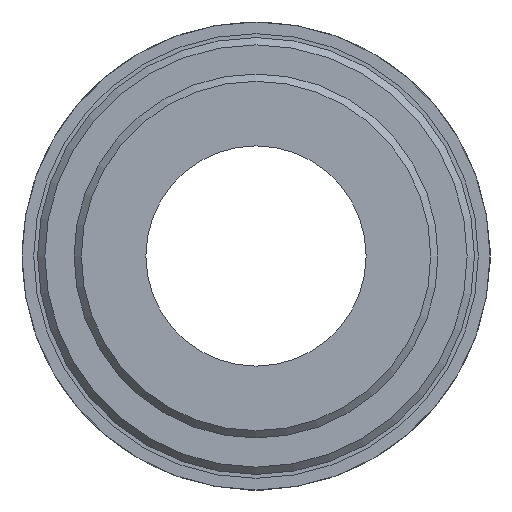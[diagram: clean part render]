
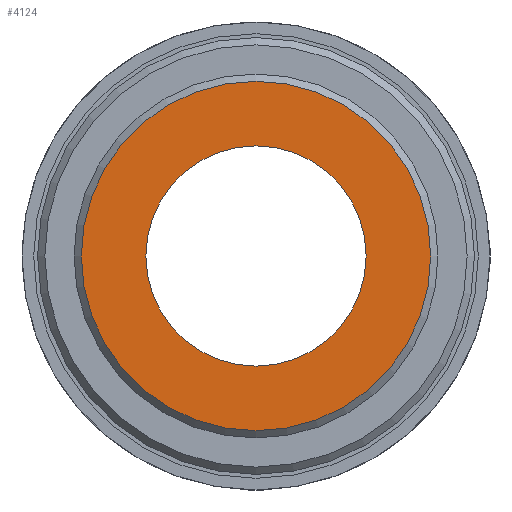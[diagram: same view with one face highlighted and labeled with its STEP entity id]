
A CAD part, left-side view. The second image highlights one B-rep face of the part: STEP entity #4124.
In plain terms, the highlighted planar face has unit normal (-1, 0, 0).
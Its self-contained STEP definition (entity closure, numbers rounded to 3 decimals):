
#286=FACE_BOUND('',#844,.T.);
#306=CIRCLE('',#4412,12.692);
#308=CIRCLE('',#4415,8.);
#556=FACE_OUTER_BOUND('',#843,.T.);
#843=EDGE_LOOP('',(#2760));
#844=EDGE_LOOP('',(#2761));
#1702=VERTEX_POINT('',#6277);
#1704=VERTEX_POINT('',#6282);
#2092=EDGE_CURVE('',#1702,#1702,#306,.T.);
#2094=EDGE_CURVE('',#1704,#1704,#308,.T.);
#2760=ORIENTED_EDGE('',*,*,#2092,.F.);
#2761=ORIENTED_EDGE('',*,*,#2094,.T.);
#3979=PLANE('',#4414);
#4124=ADVANCED_FACE('',(#556,#286),#3979,.T.);
#4412=AXIS2_PLACEMENT_3D('',#6278,#4980,#4981);
#4414=AXIS2_PLACEMENT_3D('',#6281,#4984,#4985);
#4415=AXIS2_PLACEMENT_3D('',#6283,#4986,#4987);
#4980=DIRECTION('center_axis',(1.,0.,0.));
#4981=DIRECTION('ref_axis',(0.,-1.,0.));
#4984=DIRECTION('center_axis',(-1.,0.,0.));
#4985=DIRECTION('ref_axis',(0.,0.,1.));
#4986=DIRECTION('center_axis',(1.,0.,0.));
#4987=DIRECTION('ref_axis',(0.,0.,-1.));
#6277=CARTESIAN_POINT('',(-32.5,12.692,0.));
#6278=CARTESIAN_POINT('Origin',(-32.5,0.,0.));
#6281=CARTESIAN_POINT('Origin',(-32.5,13.221,0.));
#6282=CARTESIAN_POINT('',(-32.5,8.,0.));
#6283=CARTESIAN_POINT('Origin',(-32.5,0.,0.));
